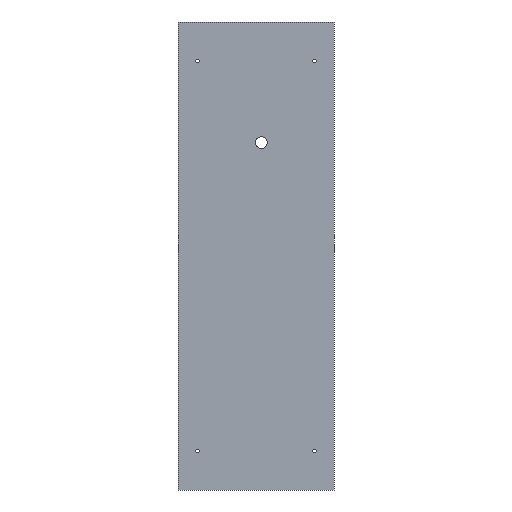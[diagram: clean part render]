
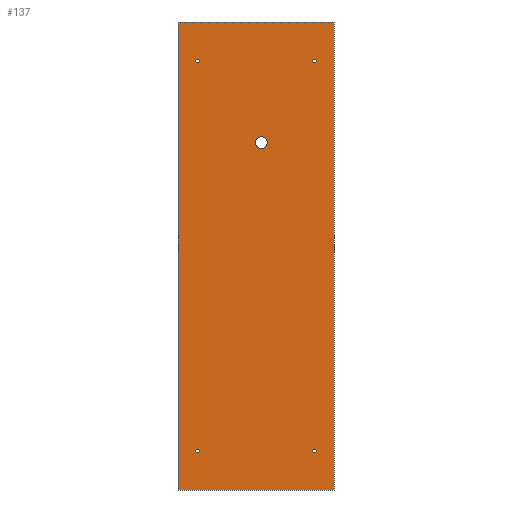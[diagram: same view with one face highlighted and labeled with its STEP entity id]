
A CAD part, front view. The second image highlights one B-rep face of the part: STEP entity #137.
In plain terms, the highlighted planar face has unit normal (0, -1, 0).
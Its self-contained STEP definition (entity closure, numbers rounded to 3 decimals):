
#21 = EDGE_CURVE('',#22,#24,#26,.T.);
#22 = VERTEX_POINT('',#23);
#23 = CARTESIAN_POINT('',(-100.,-51.98,12.));
#24 = VERTEX_POINT('',#25);
#25 = CARTESIAN_POINT('',(-100.,-51.98,612.));
#26 = SURFACE_CURVE('',#27,(#31,#43),.PCURVE_S1.);
#27 = LINE('',#28,#29);
#28 = CARTESIAN_POINT('',(-100.,-51.98,12.));
#29 = VECTOR('',#30,1.);
#30 = DIRECTION('',(0.,0.,1.));
#31 = PCURVE('',#32,#37);
#32 = PLANE('',#33);
#33 = AXIS2_PLACEMENT_3D('',#34,#35,#36);
#34 = CARTESIAN_POINT('',(-100.,-51.98,12.));
#35 = DIRECTION('',(1.,0.,0.));
#36 = DIRECTION('',(0.,0.,1.));
#37 = DEFINITIONAL_REPRESENTATION('',(#38),#42);
#38 = LINE('',#39,#40);
#39 = CARTESIAN_POINT('',(0.,0.));
#40 = VECTOR('',#41,1.);
#41 = DIRECTION('',(1.,0.));
#42 = ( GEOMETRIC_REPRESENTATION_CONTEXT(2) 
PARAMETRIC_REPRESENTATION_CONTEXT() REPRESENTATION_CONTEXT('2D SPACE',''
  ) );
#43 = PCURVE('',#44,#49);
#44 = PLANE('',#45);
#45 = AXIS2_PLACEMENT_3D('',#46,#47,#48);
#46 = CARTESIAN_POINT('',(-100.,-51.98,12.));
#47 = DIRECTION('',(0.,1.,0.));
#48 = DIRECTION('',(0.,0.,1.));
#49 = DEFINITIONAL_REPRESENTATION('',(#50),#54);
#50 = LINE('',#51,#52);
#51 = CARTESIAN_POINT('',(0.,0.));
#52 = VECTOR('',#53,1.);
#53 = DIRECTION('',(1.,0.));
#54 = ( GEOMETRIC_REPRESENTATION_CONTEXT(2) 
PARAMETRIC_REPRESENTATION_CONTEXT() REPRESENTATION_CONTEXT('2D SPACE',''
  ) );
#72 = PLANE('',#73);
#73 = AXIS2_PLACEMENT_3D('',#74,#75,#76);
#74 = CARTESIAN_POINT('',(-100.,-51.98,12.));
#75 = DIRECTION('',(0.,0.,1.));
#76 = DIRECTION('',(1.,0.,0.));
#126 = PLANE('',#127);
#127 = AXIS2_PLACEMENT_3D('',#128,#129,#130);
#128 = CARTESIAN_POINT('',(-100.,-51.98,612.));
#129 = DIRECTION('',(0.,0.,1.));
#130 = DIRECTION('',(1.,0.,0.));
#137 = ADVANCED_FACE('',(#138,#213,#244,#275,#306,#337),#44,.F.);
#138 = FACE_BOUND('',#139,.F.);
#139 = EDGE_LOOP('',(#140,#163,#164,#187));
#140 = ORIENTED_EDGE('',*,*,#141,.F.);
#141 = EDGE_CURVE('',#22,#142,#144,.T.);
#142 = VERTEX_POINT('',#143);
#143 = CARTESIAN_POINT('',(100.,-51.98,12.));
#144 = SURFACE_CURVE('',#145,(#149,#156),.PCURVE_S1.);
#145 = LINE('',#146,#147);
#146 = CARTESIAN_POINT('',(-100.,-51.98,12.));
#147 = VECTOR('',#148,1.);
#148 = DIRECTION('',(1.,0.,0.));
#149 = PCURVE('',#44,#150);
#150 = DEFINITIONAL_REPRESENTATION('',(#151),#155);
#151 = LINE('',#152,#153);
#152 = CARTESIAN_POINT('',(0.,0.));
#153 = VECTOR('',#154,1.);
#154 = DIRECTION('',(0.,1.));
#155 = ( GEOMETRIC_REPRESENTATION_CONTEXT(2) 
PARAMETRIC_REPRESENTATION_CONTEXT() REPRESENTATION_CONTEXT('2D SPACE',''
  ) );
#156 = PCURVE('',#72,#157);
#157 = DEFINITIONAL_REPRESENTATION('',(#158),#162);
#158 = LINE('',#159,#160);
#159 = CARTESIAN_POINT('',(0.,0.));
#160 = VECTOR('',#161,1.);
#161 = DIRECTION('',(1.,0.));
#162 = ( GEOMETRIC_REPRESENTATION_CONTEXT(2) 
PARAMETRIC_REPRESENTATION_CONTEXT() REPRESENTATION_CONTEXT('2D SPACE',''
  ) );
#163 = ORIENTED_EDGE('',*,*,#21,.T.);
#164 = ORIENTED_EDGE('',*,*,#165,.T.);
#165 = EDGE_CURVE('',#24,#166,#168,.T.);
#166 = VERTEX_POINT('',#167);
#167 = CARTESIAN_POINT('',(100.,-51.98,612.));
#168 = SURFACE_CURVE('',#169,(#173,#180),.PCURVE_S1.);
#169 = LINE('',#170,#171);
#170 = CARTESIAN_POINT('',(-100.,-51.98,612.));
#171 = VECTOR('',#172,1.);
#172 = DIRECTION('',(1.,0.,0.));
#173 = PCURVE('',#44,#174);
#174 = DEFINITIONAL_REPRESENTATION('',(#175),#179);
#175 = LINE('',#176,#177);
#176 = CARTESIAN_POINT('',(600.,0.));
#177 = VECTOR('',#178,1.);
#178 = DIRECTION('',(0.,1.));
#179 = ( GEOMETRIC_REPRESENTATION_CONTEXT(2) 
PARAMETRIC_REPRESENTATION_CONTEXT() REPRESENTATION_CONTEXT('2D SPACE',''
  ) );
#180 = PCURVE('',#126,#181);
#181 = DEFINITIONAL_REPRESENTATION('',(#182),#186);
#182 = LINE('',#183,#184);
#183 = CARTESIAN_POINT('',(0.,0.));
#184 = VECTOR('',#185,1.);
#185 = DIRECTION('',(1.,0.));
#186 = ( GEOMETRIC_REPRESENTATION_CONTEXT(2) 
PARAMETRIC_REPRESENTATION_CONTEXT() REPRESENTATION_CONTEXT('2D SPACE',''
  ) );
#187 = ORIENTED_EDGE('',*,*,#188,.F.);
#188 = EDGE_CURVE('',#142,#166,#189,.T.);
#189 = SURFACE_CURVE('',#190,(#194,#201),.PCURVE_S1.);
#190 = LINE('',#191,#192);
#191 = CARTESIAN_POINT('',(100.,-51.98,12.));
#192 = VECTOR('',#193,1.);
#193 = DIRECTION('',(0.,0.,1.));
#194 = PCURVE('',#44,#195);
#195 = DEFINITIONAL_REPRESENTATION('',(#196),#200);
#196 = LINE('',#197,#198);
#197 = CARTESIAN_POINT('',(0.,200.));
#198 = VECTOR('',#199,1.);
#199 = DIRECTION('',(1.,0.));
#200 = ( GEOMETRIC_REPRESENTATION_CONTEXT(2) 
PARAMETRIC_REPRESENTATION_CONTEXT() REPRESENTATION_CONTEXT('2D SPACE',''
  ) );
#201 = PCURVE('',#202,#207);
#202 = PLANE('',#203);
#203 = AXIS2_PLACEMENT_3D('',#204,#205,#206);
#204 = CARTESIAN_POINT('',(100.,-51.98,12.));
#205 = DIRECTION('',(1.,0.,0.));
#206 = DIRECTION('',(0.,0.,1.));
#207 = DEFINITIONAL_REPRESENTATION('',(#208),#212);
#208 = LINE('',#209,#210);
#209 = CARTESIAN_POINT('',(0.,0.));
#210 = VECTOR('',#211,1.);
#211 = DIRECTION('',(1.,0.));
#212 = ( GEOMETRIC_REPRESENTATION_CONTEXT(2) 
PARAMETRIC_REPRESENTATION_CONTEXT() REPRESENTATION_CONTEXT('2D SPACE',''
  ) );
#213 = FACE_BOUND('',#214,.F.);
#214 = EDGE_LOOP('',(#215));
#215 = ORIENTED_EDGE('',*,*,#216,.F.);
#216 = EDGE_CURVE('',#217,#217,#219,.T.);
#217 = VERTEX_POINT('',#218);
#218 = CARTESIAN_POINT('',(-75.,-51.98,64.25));
#219 = SURFACE_CURVE('',#220,(#225,#232),.PCURVE_S1.);
#220 = CIRCLE('',#221,2.25);
#221 = AXIS2_PLACEMENT_3D('',#222,#223,#224);
#222 = CARTESIAN_POINT('',(-75.,-51.98,62.));
#223 = DIRECTION('',(0.,1.,0.));
#224 = DIRECTION('',(0.,-0.,1.));
#225 = PCURVE('',#44,#226);
#226 = DEFINITIONAL_REPRESENTATION('',(#227),#231);
#227 = CIRCLE('',#228,2.25);
#228 = AXIS2_PLACEMENT_2D('',#229,#230);
#229 = CARTESIAN_POINT('',(50.,25.));
#230 = DIRECTION('',(1.,0.));
#231 = ( GEOMETRIC_REPRESENTATION_CONTEXT(2) 
PARAMETRIC_REPRESENTATION_CONTEXT() REPRESENTATION_CONTEXT('2D SPACE',''
  ) );
#232 = PCURVE('',#233,#238);
#233 = CYLINDRICAL_SURFACE('',#234,2.25);
#234 = AXIS2_PLACEMENT_3D('',#235,#236,#237);
#235 = CARTESIAN_POINT('',(-75.,-51.98,62.));
#236 = DIRECTION('',(0.,1.,0.));
#237 = DIRECTION('',(0.,-0.,1.));
#238 = DEFINITIONAL_REPRESENTATION('',(#239),#243);
#239 = LINE('',#240,#241);
#240 = CARTESIAN_POINT('',(0.,0.));
#241 = VECTOR('',#242,1.);
#242 = DIRECTION('',(1.,0.));
#243 = ( GEOMETRIC_REPRESENTATION_CONTEXT(2) 
PARAMETRIC_REPRESENTATION_CONTEXT() REPRESENTATION_CONTEXT('2D SPACE',''
  ) );
#244 = FACE_BOUND('',#245,.F.);
#245 = EDGE_LOOP('',(#246));
#246 = ORIENTED_EDGE('',*,*,#247,.F.);
#247 = EDGE_CURVE('',#248,#248,#250,.T.);
#248 = VERTEX_POINT('',#249);
#249 = CARTESIAN_POINT('',(-75.,-51.98,564.25));
#250 = SURFACE_CURVE('',#251,(#256,#263),.PCURVE_S1.);
#251 = CIRCLE('',#252,2.25);
#252 = AXIS2_PLACEMENT_3D('',#253,#254,#255);
#253 = CARTESIAN_POINT('',(-75.,-51.98,562.));
#254 = DIRECTION('',(0.,1.,0.));
#255 = DIRECTION('',(0.,-0.,1.));
#256 = PCURVE('',#44,#257);
#257 = DEFINITIONAL_REPRESENTATION('',(#258),#262);
#258 = CIRCLE('',#259,2.25);
#259 = AXIS2_PLACEMENT_2D('',#260,#261);
#260 = CARTESIAN_POINT('',(550.,25.));
#261 = DIRECTION('',(1.,0.));
#262 = ( GEOMETRIC_REPRESENTATION_CONTEXT(2) 
PARAMETRIC_REPRESENTATION_CONTEXT() REPRESENTATION_CONTEXT('2D SPACE',''
  ) );
#263 = PCURVE('',#264,#269);
#264 = CYLINDRICAL_SURFACE('',#265,2.25);
#265 = AXIS2_PLACEMENT_3D('',#266,#267,#268);
#266 = CARTESIAN_POINT('',(-75.,-51.98,562.));
#267 = DIRECTION('',(0.,1.,0.));
#268 = DIRECTION('',(0.,-0.,1.));
#269 = DEFINITIONAL_REPRESENTATION('',(#270),#274);
#270 = LINE('',#271,#272);
#271 = CARTESIAN_POINT('',(0.,0.));
#272 = VECTOR('',#273,1.);
#273 = DIRECTION('',(1.,0.));
#274 = ( GEOMETRIC_REPRESENTATION_CONTEXT(2) 
PARAMETRIC_REPRESENTATION_CONTEXT() REPRESENTATION_CONTEXT('2D SPACE',''
  ) );
#275 = FACE_BOUND('',#276,.F.);
#276 = EDGE_LOOP('',(#277));
#277 = ORIENTED_EDGE('',*,*,#278,.F.);
#278 = EDGE_CURVE('',#279,#279,#281,.T.);
#279 = VERTEX_POINT('',#280);
#280 = CARTESIAN_POINT('',(75.,-51.98,64.25));
#281 = SURFACE_CURVE('',#282,(#287,#294),.PCURVE_S1.);
#282 = CIRCLE('',#283,2.25);
#283 = AXIS2_PLACEMENT_3D('',#284,#285,#286);
#284 = CARTESIAN_POINT('',(75.,-51.98,62.));
#285 = DIRECTION('',(0.,1.,0.));
#286 = DIRECTION('',(0.,-0.,1.));
#287 = PCURVE('',#44,#288);
#288 = DEFINITIONAL_REPRESENTATION('',(#289),#293);
#289 = CIRCLE('',#290,2.25);
#290 = AXIS2_PLACEMENT_2D('',#291,#292);
#291 = CARTESIAN_POINT('',(50.,175.));
#292 = DIRECTION('',(1.,0.));
#293 = ( GEOMETRIC_REPRESENTATION_CONTEXT(2) 
PARAMETRIC_REPRESENTATION_CONTEXT() REPRESENTATION_CONTEXT('2D SPACE',''
  ) );
#294 = PCURVE('',#295,#300);
#295 = CYLINDRICAL_SURFACE('',#296,2.25);
#296 = AXIS2_PLACEMENT_3D('',#297,#298,#299);
#297 = CARTESIAN_POINT('',(75.,-51.98,62.));
#298 = DIRECTION('',(0.,1.,0.));
#299 = DIRECTION('',(0.,-0.,1.));
#300 = DEFINITIONAL_REPRESENTATION('',(#301),#305);
#301 = LINE('',#302,#303);
#302 = CARTESIAN_POINT('',(0.,0.));
#303 = VECTOR('',#304,1.);
#304 = DIRECTION('',(1.,0.));
#305 = ( GEOMETRIC_REPRESENTATION_CONTEXT(2) 
PARAMETRIC_REPRESENTATION_CONTEXT() REPRESENTATION_CONTEXT('2D SPACE',''
  ) );
#306 = FACE_BOUND('',#307,.F.);
#307 = EDGE_LOOP('',(#308));
#308 = ORIENTED_EDGE('',*,*,#309,.F.);
#309 = EDGE_CURVE('',#310,#310,#312,.T.);
#310 = VERTEX_POINT('',#311);
#311 = CARTESIAN_POINT('',(7.,-51.98,465.));
#312 = SURFACE_CURVE('',#313,(#318,#325),.PCURVE_S1.);
#313 = CIRCLE('',#314,7.5);
#314 = AXIS2_PLACEMENT_3D('',#315,#316,#317);
#315 = CARTESIAN_POINT('',(7.,-51.98,457.5));
#316 = DIRECTION('',(0.,1.,0.));
#317 = DIRECTION('',(0.,-0.,1.));
#318 = PCURVE('',#44,#319);
#319 = DEFINITIONAL_REPRESENTATION('',(#320),#324);
#320 = CIRCLE('',#321,7.5);
#321 = AXIS2_PLACEMENT_2D('',#322,#323);
#322 = CARTESIAN_POINT('',(445.5,107.));
#323 = DIRECTION('',(1.,0.));
#324 = ( GEOMETRIC_REPRESENTATION_CONTEXT(2) 
PARAMETRIC_REPRESENTATION_CONTEXT() REPRESENTATION_CONTEXT('2D SPACE',''
  ) );
#325 = PCURVE('',#326,#331);
#326 = CYLINDRICAL_SURFACE('',#327,7.5);
#327 = AXIS2_PLACEMENT_3D('',#328,#329,#330);
#328 = CARTESIAN_POINT('',(7.,-51.98,457.5));
#329 = DIRECTION('',(0.,1.,0.));
#330 = DIRECTION('',(0.,-0.,1.));
#331 = DEFINITIONAL_REPRESENTATION('',(#332),#336);
#332 = LINE('',#333,#334);
#333 = CARTESIAN_POINT('',(0.,0.));
#334 = VECTOR('',#335,1.);
#335 = DIRECTION('',(1.,0.));
#336 = ( GEOMETRIC_REPRESENTATION_CONTEXT(2) 
PARAMETRIC_REPRESENTATION_CONTEXT() REPRESENTATION_CONTEXT('2D SPACE',''
  ) );
#337 = FACE_BOUND('',#338,.F.);
#338 = EDGE_LOOP('',(#339));
#339 = ORIENTED_EDGE('',*,*,#340,.F.);
#340 = EDGE_CURVE('',#341,#341,#343,.T.);
#341 = VERTEX_POINT('',#342);
#342 = CARTESIAN_POINT('',(75.,-51.98,564.25));
#343 = SURFACE_CURVE('',#344,(#349,#356),.PCURVE_S1.);
#344 = CIRCLE('',#345,2.25);
#345 = AXIS2_PLACEMENT_3D('',#346,#347,#348);
#346 = CARTESIAN_POINT('',(75.,-51.98,562.));
#347 = DIRECTION('',(0.,1.,0.));
#348 = DIRECTION('',(0.,-0.,1.));
#349 = PCURVE('',#44,#350);
#350 = DEFINITIONAL_REPRESENTATION('',(#351),#355);
#351 = CIRCLE('',#352,2.25);
#352 = AXIS2_PLACEMENT_2D('',#353,#354);
#353 = CARTESIAN_POINT('',(550.,175.));
#354 = DIRECTION('',(1.,0.));
#355 = ( GEOMETRIC_REPRESENTATION_CONTEXT(2) 
PARAMETRIC_REPRESENTATION_CONTEXT() REPRESENTATION_CONTEXT('2D SPACE',''
  ) );
#356 = PCURVE('',#357,#362);
#357 = CYLINDRICAL_SURFACE('',#358,2.25);
#358 = AXIS2_PLACEMENT_3D('',#359,#360,#361);
#359 = CARTESIAN_POINT('',(75.,-51.98,562.));
#360 = DIRECTION('',(0.,1.,0.));
#361 = DIRECTION('',(0.,-0.,1.));
#362 = DEFINITIONAL_REPRESENTATION('',(#363),#367);
#363 = LINE('',#364,#365);
#364 = CARTESIAN_POINT('',(0.,0.));
#365 = VECTOR('',#366,1.);
#366 = DIRECTION('',(1.,0.));
#367 = ( GEOMETRIC_REPRESENTATION_CONTEXT(2) 
PARAMETRIC_REPRESENTATION_CONTEXT() REPRESENTATION_CONTEXT('2D SPACE',''
  ) );
